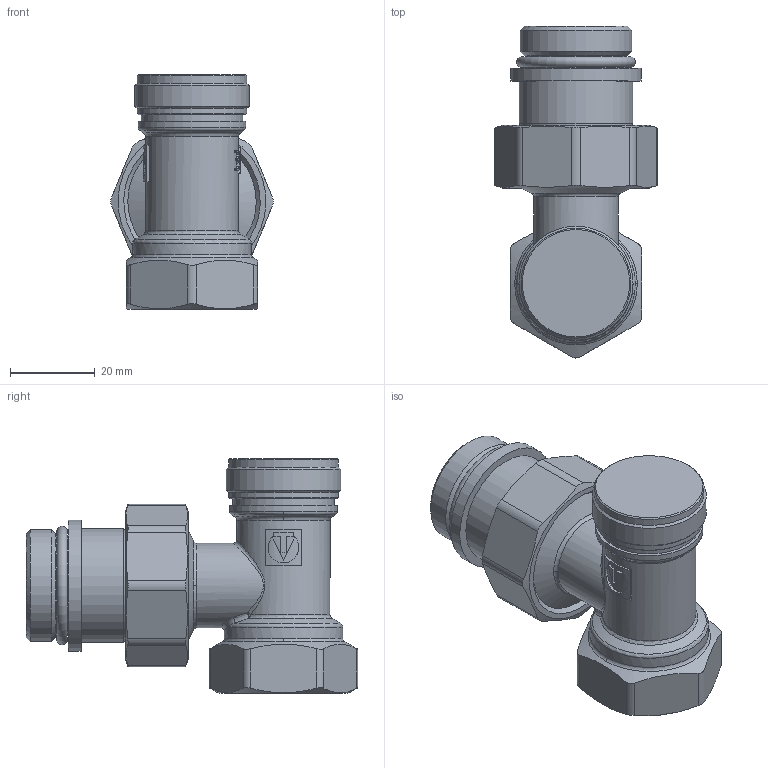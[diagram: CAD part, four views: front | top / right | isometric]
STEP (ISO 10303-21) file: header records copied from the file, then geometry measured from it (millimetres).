
FILE_DESCRIPTION(('STEP AP203'), '1');
FILE_NAME('VT.019.N.05', '2024-06-27T09:18:47', ('User'), ('Vesta'), 'C3D Converter', 'C3D Toolkit', '');
FILE_SCHEMA(('CONFIG_CONTROL_DESIGN'));
Length unit declared in the file: millimetre
Products named in the file (1): ВР.493176.021.000 СБ
Bounding box: 38.36 x 78.44 x 55.5 mm (x, y, z)
Volume: 57901.8 mm3; surface area: 14505.9 mm2
Topology: 1 solids, 1 shells, 196 faces, 512 edges, 333 vertices
Faces by surface type: plane 68, extrusion 53, cylinder 38, cone 18, torus 11, bspline 8
Full cylindrical faces by diameter (mm): 20 x1, 22 x1, 23.3 x2, 24 x2, 24.118 x1, 25.5 x1, 26 x2, 26.441 x1, 26.5 x1, 26.9 x1, 27 x1, 27.3 x1, 28 x1, 31 x1
Entity records: 10842 total; most frequent: CARTESIAN_POINT 6515, ORIENTED_EDGE 952, DIRECTION 692, EDGE_CURVE 476, VERTEX_POINT 333, EDGE_LOOP 247, B_SPLINE_CURVE_WITH_KNOTS 246, AXIS2_PLACEMENT_3D 244
